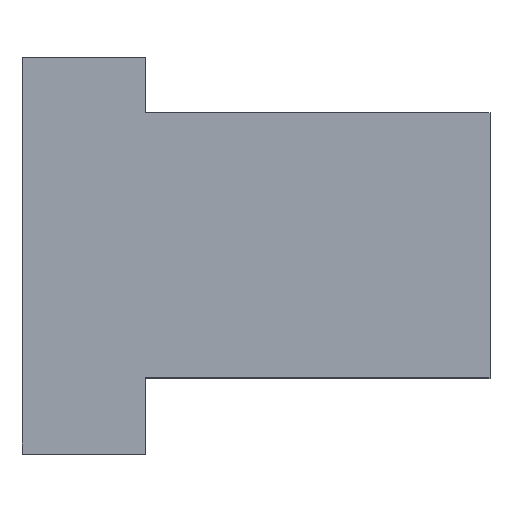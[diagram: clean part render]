
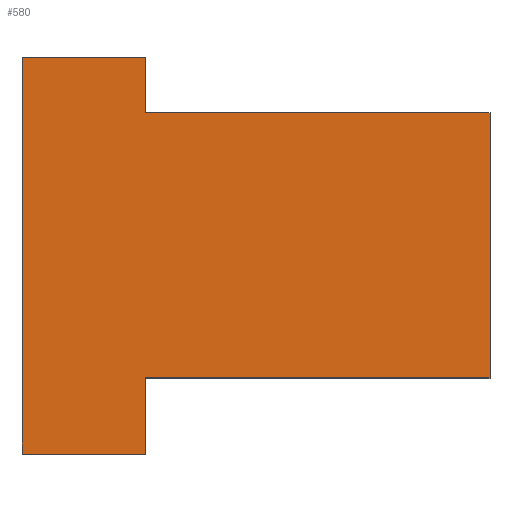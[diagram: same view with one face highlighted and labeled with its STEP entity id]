
A CAD part, top view. The second image highlights one B-rep face of the part: STEP entity #580.
In plain terms, the highlighted planar face has unit normal (0, 0, 1).
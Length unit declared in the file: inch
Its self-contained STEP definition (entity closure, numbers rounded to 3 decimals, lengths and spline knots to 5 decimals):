
#5=DIRECTION('',(0.,-1.,0.));
#6=VECTOR('',#5,2.23);
#7=CARTESIAN_POINT('',(0.,1.115,1.25));
#8=LINE('',#7,#6);
#120=DIRECTION('',(0.,-1.,0.));
#121=VECTOR('',#120,1.4895);
#122=CARTESIAN_POINT('',(2.63,0.8025,1.25));
#123=LINE('',#122,#121);
#141=DIRECTION('',(-1.,0.,0.));
#142=VECTOR('',#141,1.937);
#143=CARTESIAN_POINT('',(2.63,-0.687,1.25));
#144=LINE('',#143,#142);
#145=DIRECTION('',(0.,1.,0.));
#146=VECTOR('',#145,0.428);
#147=CARTESIAN_POINT('',(0.693,-1.115,1.25));
#148=LINE('',#147,#146);
#149=DIRECTION('',(1.,0.,0.));
#150=VECTOR('',#149,0.693);
#151=CARTESIAN_POINT('',(0.,1.115,1.25));
#152=LINE('',#151,#150);
#153=DIRECTION('',(0.,-1.,0.));
#154=VECTOR('',#153,0.3125);
#155=CARTESIAN_POINT('',(0.693,1.115,1.25));
#156=LINE('',#155,#154);
#157=DIRECTION('',(-1.,0.,0.));
#158=VECTOR('',#157,1.937);
#159=CARTESIAN_POINT('',(2.63,0.8025,1.25));
#160=LINE('',#159,#158);
#183=DIRECTION('',(1.,0.,0.));
#184=VECTOR('',#183,0.693);
#185=CARTESIAN_POINT('',(0.,-1.115,1.25));
#186=LINE('',#185,#184);
#296=CARTESIAN_POINT('',(0.,1.115,1.25));
#298=VERTEX_POINT('',#296);
#299=CARTESIAN_POINT('',(0.,-1.115,1.25));
#300=VERTEX_POINT('',#299);
#303=CARTESIAN_POINT('',(2.63,0.8025,1.25));
#305=VERTEX_POINT('',#303);
#308=CARTESIAN_POINT('',(0.693,1.115,1.25));
#310=VERTEX_POINT('',#308);
#311=CARTESIAN_POINT('',(0.693,0.8025,1.25));
#312=VERTEX_POINT('',#311);
#315=CARTESIAN_POINT('',(2.63,-0.687,1.25));
#316=CARTESIAN_POINT('',(0.693,-0.687,1.25));
#317=VERTEX_POINT('',#315);
#318=VERTEX_POINT('',#316);
#319=CARTESIAN_POINT('',(0.693,-1.115,1.25));
#320=VERTEX_POINT('',#319);
#562=CARTESIAN_POINT('',(0.,1.115,1.25));
#563=DIRECTION('',(0.,0.,1.));
#564=DIRECTION('',(0.,-1.,0.));
#565=AXIS2_PLACEMENT_3D('',#562,#563,#564);
#566=PLANE('',#565);
#567=ORIENTED_EDGE('',*,*,#489,.T.);
#569=ORIENTED_EDGE('',*,*,#568,.F.);
#571=ORIENTED_EDGE('',*,*,#570,.F.);
#572=ORIENTED_EDGE('',*,*,#390,.F.);
#573=ORIENTED_EDGE('',*,*,#436,.T.);
#574=ORIENTED_EDGE('',*,*,#454,.T.);
#576=ORIENTED_EDGE('',*,*,#575,.F.);
#577=ORIENTED_EDGE('',*,*,#552,.T.);
#578=EDGE_LOOP('',(#567,#569,#571,#572,#573,#574,#576,#577));
#579=FACE_OUTER_BOUND('',#578,.F.);
#580=ADVANCED_FACE('',(#579),#566,.T.);
#390=EDGE_CURVE('',#298,#300,#8,.T.);
#436=EDGE_CURVE('',#298,#310,#152,.T.);
#454=EDGE_CURVE('',#310,#312,#156,.T.);
#489=EDGE_CURVE('',#317,#318,#144,.T.);
#552=EDGE_CURVE('',#305,#317,#123,.T.);
#568=EDGE_CURVE('',#320,#318,#148,.T.);
#570=EDGE_CURVE('',#300,#320,#186,.T.);
#575=EDGE_CURVE('',#305,#312,#160,.T.);
